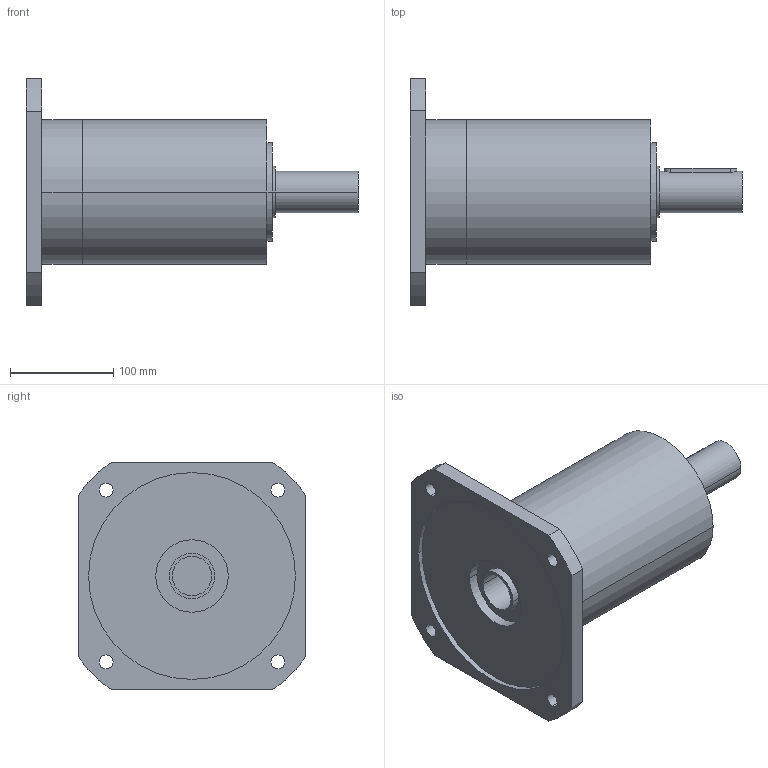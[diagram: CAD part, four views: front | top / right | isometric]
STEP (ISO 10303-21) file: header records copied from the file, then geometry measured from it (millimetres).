
FILE_DESCRIPTION(('CoCreate Modeling STEP Export'),'2;1');
FILE_NAME('GPR150_ig-9-12-16-20-28-35_40_B14_38_P12.stp','2014-08-19T17:04:36',(''),(''),'CoCreate Modeling STEP processor for AP214 (Solid Model)','CoCreate Modeling 16.00C 25-Feb-2009 (C) Parametric Technology GmbH','');
FILE_SCHEMA(('AUTOMOTIVE_DESIGN { 1 0 10303 214 1 1 1 1 }'));
Length unit declared in the file: millimetre
Products named in the file (2): GPR150_ig-9-12-16-20-28-35_40_B14_38_P12
Assembly tree (1 placements, depth 2):
  GPR150_ig-9-12-16-20-28-35_40_B14_38_P12
    GPR150_ig-9-12-16-20-28-35_40_B14_38_P12
Bounding box: 321 x 220 x 220 mm (x, y, z)
Volume: 3906235.1 mm3; surface area: 236166.1 mm2
Topology: 1 solids, 1 shells, 70 faces, 189 edges, 133 vertices
Faces by surface type: cylinder 42, plane 22, cone 6
Entity records: 1968 total; most frequent: CARTESIAN_POINT 385, ORIENTED_EDGE 374, DIRECTION 262, EDGE_CURVE 187, VERTEX_POINT 133, AXIS2_PLACEMENT_3D 98, EDGE_LOOP 92, FACE_OUTER_BOUND 70
